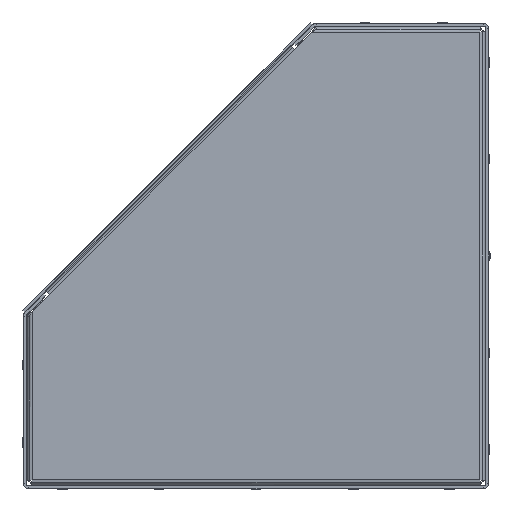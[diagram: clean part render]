
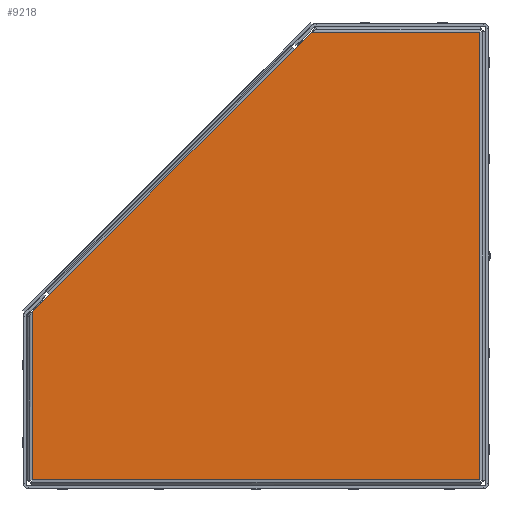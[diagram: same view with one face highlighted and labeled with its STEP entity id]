
A CAD part, left-side view. The second image highlights one B-rep face of the part: STEP entity #9218.
In plain terms, the highlighted planar face has unit normal (-1, 0, 0) as drawn and (1, 0, 0) by its records, which use the part's own axes.
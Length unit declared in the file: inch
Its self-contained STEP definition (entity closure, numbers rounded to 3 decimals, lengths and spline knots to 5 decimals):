
#19 = VERTEX_POINT ( 'NONE', #14672 ) ;
#252 = EDGE_CURVE ( 'NONE', #19, #3609, #5844, .T. ) ;
#951 = VERTEX_POINT ( 'NONE', #6814 ) ;
#1086 = ORIENTED_EDGE ( 'NONE', *, *, #9528, .T. ) ;
#1856 = DIRECTION ( 'NONE',  ( 0., -1., 0. ) ) ;
#1928 = DIRECTION ( 'NONE',  ( 0., 1., 0. ) ) ;
#2020 = LINE ( 'NONE', #5749, #9700 ) ;
#2686 = CARTESIAN_POINT ( 'NONE',  ( 0., 11.552, -7.21399 ) ) ;
#2737 = FACE_OUTER_BOUND ( 'NONE', #9156, .T. ) ;
#3269 = PLANE ( 'NONE',  #15193 ) ;
#3305 = CARTESIAN_POINT ( 'NONE',  ( 0., 4.33801, 0. ) ) ;
#3336 = CARTESIAN_POINT ( 'NONE',  ( 0., 0., 0. ) ) ;
#3609 = VERTEX_POINT ( 'NONE', #6216 ) ;
#4424 = ORIENTED_EDGE ( 'NONE', *, *, #15733, .T. ) ;
#4493 = ORIENTED_EDGE ( 'NONE', *, *, #252, .T. ) ;
#4783 = DIRECTION ( 'NONE',  ( 0., 0., -1. ) ) ;
#5148 = VECTOR ( 'NONE', #9519, 39.37008 ) ;
#5187 = EDGE_CURVE ( 'NONE', #16081, #951, #5595, .T. ) ;
#5395 = DIRECTION ( 'NONE',  ( 0., 0., 1. ) ) ;
#5595 = LINE ( 'NONE', #16745, #5148 ) ;
#5749 = CARTESIAN_POINT ( 'NONE',  ( 0., 11.552, -7.21399 ) ) ;
#5844 = LINE ( 'NONE', #18145, #13550 ) ;
#6216 = CARTESIAN_POINT ( 'NONE',  ( 0., 4.78526, -0.44725 ) ) ;
#6549 = EDGE_CURVE ( 'NONE', #14758, #11712, #11200, .T. ) ;
#6814 = CARTESIAN_POINT ( 'NONE',  ( 0., 0., -11.552 ) ) ;
#7204 = DIRECTION ( 'NONE',  ( 0., -0.707, 0.707 ) ) ;
#8215 = VECTOR ( 'NONE', #1856, 39.37008 ) ;
#9127 = CARTESIAN_POINT ( 'NONE',  ( 0., 0., -11.552 ) ) ;
#9156 = EDGE_LOOP ( 'NONE', ( #13165, #16414, #4424, #11801, #1086, #4493, #15273 ) ) ;
#9218 = ADVANCED_FACE ( 'NONE', ( #2737 ), #3269, .T. ) ;
#9519 = DIRECTION ( 'NONE',  ( 0., 0., -1. ) ) ;
#9528 = EDGE_CURVE ( 'NONE', #11712, #19, #13135, .T. ) ;
#9700 = VECTOR ( 'NONE', #7204, 39.37008 ) ;
#10935 = DIRECTION ( 'NONE',  ( 0., -0.707, 0.707 ) ) ;
#11200 = LINE ( 'NONE', #14062, #15506 ) ;
#11311 = LINE ( 'NONE', #9127, #14252 ) ;
#11706 = CARTESIAN_POINT ( 'NONE',  ( 0., 0., 0. ) ) ;
#11712 = VERTEX_POINT ( 'NONE', #15815 ) ;
#11801 = ORIENTED_EDGE ( 'NONE', *, *, #6549, .T. ) ;
#11962 = CARTESIAN_POINT ( 'NONE',  ( 0., 4.33801, 0. ) ) ;
#12057 = LINE ( 'NONE', #11962, #8215 ) ;
#12800 = DIRECTION ( 'NONE',  ( 0., -0.707, 0.707 ) ) ;
#13135 = LINE ( 'NONE', #2686, #16985 ) ;
#13165 = ORIENTED_EDGE ( 'NONE', *, *, #13427, .T. ) ;
#13427 = EDGE_CURVE ( 'NONE', #15265, #16081, #12057, .T. ) ;
#13463 = DIRECTION ( 'NONE',  ( 1., 0., 0. ) ) ;
#13550 = VECTOR ( 'NONE', #10935, 39.37008 ) ;
#14062 = CARTESIAN_POINT ( 'NONE',  ( 0., 11.552, -11.552 ) ) ;
#14252 = VECTOR ( 'NONE', #1928, 39.37008 ) ;
#14672 = CARTESIAN_POINT ( 'NONE',  ( 0., 11.10475, -6.76674 ) ) ;
#14758 = VERTEX_POINT ( 'NONE', #17854 ) ;
#15193 = AXIS2_PLACEMENT_3D ( 'NONE', #3336, #13463, #4783 ) ;
#15265 = VERTEX_POINT ( 'NONE', #3305 ) ;
#15273 = ORIENTED_EDGE ( 'NONE', *, *, #16600, .T. ) ;
#15506 = VECTOR ( 'NONE', #5395, 39.37008 ) ;
#15733 = EDGE_CURVE ( 'NONE', #951, #14758, #11311, .T. ) ;
#15815 = CARTESIAN_POINT ( 'NONE',  ( 0., 11.552, -7.21399 ) ) ;
#16081 = VERTEX_POINT ( 'NONE', #11706 ) ;
#16414 = ORIENTED_EDGE ( 'NONE', *, *, #5187, .T. ) ;
#16600 = EDGE_CURVE ( 'NONE', #3609, #15265, #2020, .T. ) ;
#16745 = CARTESIAN_POINT ( 'NONE',  ( 0., 0., 0. ) ) ;
#16985 = VECTOR ( 'NONE', #12800, 39.37008 ) ;
#17854 = CARTESIAN_POINT ( 'NONE',  ( 0., 11.552, -11.552 ) ) ;
#18145 = CARTESIAN_POINT ( 'NONE',  ( 0., 11.10475, -6.76674 ) ) ;
